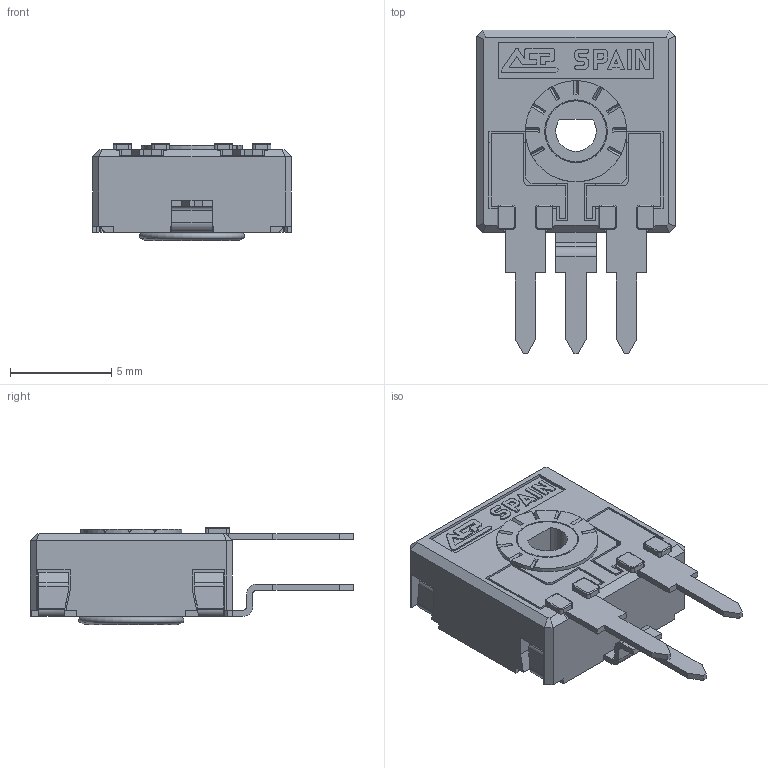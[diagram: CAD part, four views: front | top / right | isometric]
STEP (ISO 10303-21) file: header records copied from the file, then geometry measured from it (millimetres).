
FILE_DESCRIPTION(/* description */ (''),/* implementation_level */ '2;1');
FILE_NAME(/* name */ 'COMCA9DH2,5.stp',/* time_stamp */ '2026-03-30T17:19:17+02:00',/* author */ ('CEM'),/* organization */ (''),/* preprocessor_version */ 'ST-DEVELOPER v20.1',/* originating_system */ 'Autodesk Inventor 2026',/* authorisation */ '');
FILE_SCHEMA (('AUTOMOTIVE_DESIGN { 1 0 10303 214 3 1 1 }'));
Length unit declared in the file: millimetre
Products named in the file (1): COMCA9DH2,5
Bounding box: 9.8 x 16 x 4.8 mm (x, y, z)
Volume: 244.1 mm3; surface area: 831.6 mm2
Topology: 2 solids, 2 shells, 588 faces, 1664 edges, 1063 vertices
Faces by surface type: plane 468, cylinder 84, torus 19, cone 17
Full cylindrical faces by diameter (mm): 3 x1, 3.1 x1, 4 x1, 4.8 x1, 5 x1
Entity records: 19031 total; most frequent: CARTESIAN_POINT 3374, ORIENTED_EDGE 3328, DIRECTION 3089, EDGE_CURVE 1664, LINE 1361, VECTOR 1361, VERTEX_POINT 1063, AXIS2_PLACEMENT_3D 864
